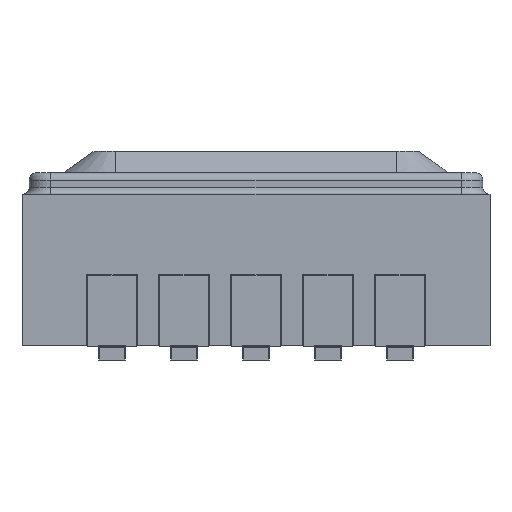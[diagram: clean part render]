
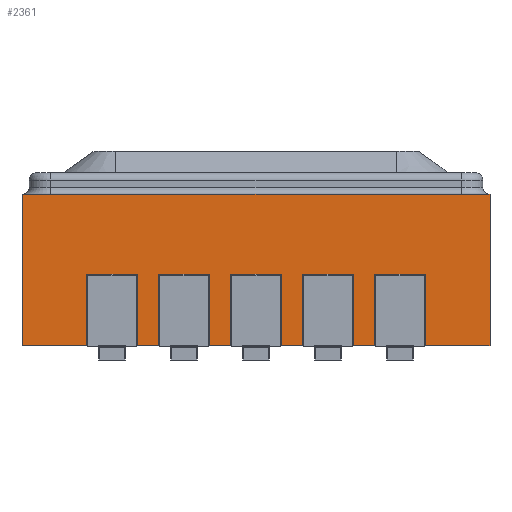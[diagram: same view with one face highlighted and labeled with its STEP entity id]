
A CAD part, left-side view. The second image highlights one B-rep face of the part: STEP entity #2361.
In plain terms, the highlighted planar face has unit normal (-1, 0, 0).
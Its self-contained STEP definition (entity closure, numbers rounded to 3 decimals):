
#2361=ADVANCED_FACE('',(#7823),#7825,.T.);
#7823=FACE_BOUND('',#7824,.T.);
#7824=EDGE_LOOP('',(#13329,#13330,#13331,#13332,#13333,#13334,#13335,#13336,#13337,
#13338,#13339,#13340,#13341,#13342,#13343,#13344,#13345,#13346,#13347,#13348,#13349,
#13350,#13351,#13352,#13353,#13354));
#7825=PLANE('',#7826);
#7826=AXIS2_PLACEMENT_3D('',#7827,#7828,#7829);
#7827=CARTESIAN_POINT('',(-3.25,3.25,0.));
#7828=DIRECTION('',(-1.,0.,0.));
#7829=DIRECTION('',(0.,-1.,0.));
#13329=ORIENTED_EDGE('',*,*,#15987,.F.);
#13330=ORIENTED_EDGE('',*,*,#15988,.T.);
#13331=ORIENTED_EDGE('',*,*,#15989,.F.);
#13332=ORIENTED_EDGE('',*,*,#15990,.F.);
#13333=ORIENTED_EDGE('',*,*,#15991,.F.);
#13334=ORIENTED_EDGE('',*,*,#15992,.T.);
#13335=ORIENTED_EDGE('',*,*,#15993,.F.);
#13336=ORIENTED_EDGE('',*,*,#15994,.F.);
#13337=ORIENTED_EDGE('',*,*,#15995,.F.);
#13338=ORIENTED_EDGE('',*,*,#15996,.T.);
#13339=ORIENTED_EDGE('',*,*,#15997,.F.);
#13340=ORIENTED_EDGE('',*,*,#15998,.F.);
#13341=ORIENTED_EDGE('',*,*,#15999,.F.);
#13342=ORIENTED_EDGE('',*,*,#16000,.T.);
#13343=ORIENTED_EDGE('',*,*,#16001,.T.);
#13344=ORIENTED_EDGE('',*,*,#16002,.F.);
#13345=ORIENTED_EDGE('',*,*,#15937,.F.);
#13346=ORIENTED_EDGE('',*,*,#15986,.F.);
#13347=ORIENTED_EDGE('',*,*,#15977,.F.);
#13348=ORIENTED_EDGE('',*,*,#16003,.T.);
#13349=ORIENTED_EDGE('',*,*,#16004,.F.);
#13350=ORIENTED_EDGE('',*,*,#16005,.F.);
#13351=ORIENTED_EDGE('',*,*,#16006,.F.);
#13352=ORIENTED_EDGE('',*,*,#16007,.T.);
#13353=ORIENTED_EDGE('',*,*,#16008,.F.);
#13354=ORIENTED_EDGE('',*,*,#16009,.F.);
#15937=EDGE_CURVE('',#18026,#18029,#18030,.T.);
#15977=EDGE_CURVE('',#18102,#18104,#18105,.T.);
#15986=EDGE_CURVE('',#18104,#18026,#18120,.T.);
#15987=EDGE_CURVE('',#18121,#18122,#18123,.T.);
#15988=EDGE_CURVE('',#18121,#18124,#18125,.T.);
#15989=EDGE_CURVE('',#18126,#18124,#18127,.T.);
#15990=EDGE_CURVE('',#18128,#18126,#18129,.T.);
#15991=EDGE_CURVE('',#18130,#18128,#18131,.T.);
#15992=EDGE_CURVE('',#18130,#18132,#18133,.T.);
#15993=EDGE_CURVE('',#18134,#18132,#18135,.T.);
#15994=EDGE_CURVE('',#18136,#18134,#18137,.T.);
#15995=EDGE_CURVE('',#18138,#18136,#18139,.T.);
#15996=EDGE_CURVE('',#18138,#18140,#18141,.T.);
#15997=EDGE_CURVE('',#18142,#18140,#18143,.T.);
#15998=EDGE_CURVE('',#18144,#18142,#18145,.T.);
#15999=EDGE_CURVE('',#18146,#18144,#18147,.T.);
#16000=EDGE_CURVE('',#18146,#18148,#18149,.T.);
#16001=EDGE_CURVE('',#18148,#18150,#18151,.T.);
#16002=EDGE_CURVE('',#18029,#18150,#18152,.T.);
#16003=EDGE_CURVE('',#18102,#18153,#18154,.T.);
#16004=EDGE_CURVE('',#18155,#18153,#18156,.T.);
#16005=EDGE_CURVE('',#18157,#18155,#18158,.T.);
#16006=EDGE_CURVE('',#18159,#18157,#18160,.T.);
#16007=EDGE_CURVE('',#18159,#18161,#18162,.T.);
#16008=EDGE_CURVE('',#18163,#18161,#18164,.T.);
#16009=EDGE_CURVE('',#18122,#18163,#18165,.T.);
#18026=VERTEX_POINT('',#23379);
#18029=VERTEX_POINT('',#23388);
#18030=LINE('',#23389,#23390);
#18102=VERTEX_POINT('',#23648);
#18104=VERTEX_POINT('',#23652);
#18105=LINE('',#23653,#23654);
#18120=LINE('',#23686,#23687);
#18121=VERTEX_POINT('',#23689);
#18122=VERTEX_POINT('',#23690);
#18123=LINE('',#23691,#23692);
#18124=VERTEX_POINT('',#23694);
#18125=LINE('',#23695,#23696);
#18126=VERTEX_POINT('',#23698);
#18127=LINE('',#23699,#23700);
#18128=VERTEX_POINT('',#23702);
#18129=LINE('',#23703,#23704);
#18130=VERTEX_POINT('',#23706);
#18131=LINE('',#23707,#23708);
#18132=VERTEX_POINT('',#23710);
#18133=LINE('',#23711,#23712);
#18134=VERTEX_POINT('',#23714);
#18135=LINE('',#23715,#23716);
#18136=VERTEX_POINT('',#23718);
#18137=LINE('',#23719,#23720);
#18138=VERTEX_POINT('',#23722);
#18139=LINE('',#23723,#23724);
#18140=VERTEX_POINT('',#23726);
#18141=LINE('',#23727,#23728);
#18142=VERTEX_POINT('',#23730);
#18143=LINE('',#23731,#23732);
#18144=VERTEX_POINT('',#23734);
#18145=LINE('',#23735,#23736);
#18146=VERTEX_POINT('',#23738);
#18147=LINE('',#23739,#23740);
#18148=VERTEX_POINT('',#23742);
#18149=LINE('',#23743,#23744);
#18150=VERTEX_POINT('',#23746);
#18151=LINE('',#23747,#23748);
#18152=LINE('',#23750,#23751);
#18153=VERTEX_POINT('',#23753);
#18154=LINE('',#23754,#23755);
#18155=VERTEX_POINT('',#23757);
#18156=LINE('',#23758,#23759);
#18157=VERTEX_POINT('',#23761);
#18158=LINE('',#23762,#23763);
#18159=VERTEX_POINT('',#23765);
#18160=LINE('',#23766,#23767);
#18161=VERTEX_POINT('',#23769);
#18162=LINE('',#23770,#23771);
#18163=VERTEX_POINT('',#23773);
#18164=LINE('',#23774,#23775);
#18165=LINE('',#23777,#23778);
#23379=CARTESIAN_POINT('',(-3.25,2.85,2.101));
#23388=CARTESIAN_POINT('',(-3.25,-2.85,2.101));
#23389=CARTESIAN_POINT('',(-3.25,2.85,2.101));
#23390=VECTOR('',#23391,1.);
#23391=DIRECTION('',(0.,-1.,0.));
#23648=CARTESIAN_POINT('',(-3.25,3.25,0.));
#23652=CARTESIAN_POINT('',(-3.25,3.25,2.101));
#23653=CARTESIAN_POINT('',(-3.25,3.25,0.));
#23654=VECTOR('',#23655,1.);
#23655=DIRECTION('',(0.,0.,1.));
#23686=CARTESIAN_POINT('',(-3.25,3.25,2.101));
#23687=VECTOR('',#23688,1.);
#23688=DIRECTION('',(0.,-1.,0.));
#23689=CARTESIAN_POINT('',(-3.25,0.65,0.));
#23690=CARTESIAN_POINT('',(-3.25,0.65,0.99));
#23691=CARTESIAN_POINT('',(-3.25,0.65,0.));
#23692=VECTOR('',#23693,1.);
#23693=DIRECTION('',(0.,0.,1.));
#23694=CARTESIAN_POINT('',(-3.25,0.35,0.));
#23695=CARTESIAN_POINT('',(-3.25,0.65,0.));
#23696=VECTOR('',#23697,1.);
#23697=DIRECTION('',(0.,-1.,0.));
#23698=CARTESIAN_POINT('',(-3.25,0.35,0.99));
#23699=CARTESIAN_POINT('',(-3.25,0.35,0.99));
#23700=VECTOR('',#23701,1.);
#23701=DIRECTION('',(0.,0.,-1.));
#23702=CARTESIAN_POINT('',(-3.25,-0.35,0.99));
#23703=CARTESIAN_POINT('',(-3.25,-0.35,0.99));
#23704=VECTOR('',#23705,1.);
#23705=DIRECTION('',(0.,1.,0.));
#23706=CARTESIAN_POINT('',(-3.25,-0.35,0.));
#23707=CARTESIAN_POINT('',(-3.25,-0.35,0.));
#23708=VECTOR('',#23709,1.);
#23709=DIRECTION('',(0.,0.,1.));
#23710=CARTESIAN_POINT('',(-3.25,-0.65,0.));
#23711=CARTESIAN_POINT('',(-3.25,-0.35,0.));
#23712=VECTOR('',#23713,1.);
#23713=DIRECTION('',(0.,-1.,0.));
#23714=CARTESIAN_POINT('',(-3.25,-0.65,0.99));
#23715=CARTESIAN_POINT('',(-3.25,-0.65,0.99));
#23716=VECTOR('',#23717,1.);
#23717=DIRECTION('',(0.,0.,-1.));
#23718=CARTESIAN_POINT('',(-3.25,-1.35,0.99));
#23719=CARTESIAN_POINT('',(-3.25,-1.35,0.99));
#23720=VECTOR('',#23721,1.);
#23721=DIRECTION('',(0.,1.,0.));
#23722=CARTESIAN_POINT('',(-3.25,-1.35,0.));
#23723=CARTESIAN_POINT('',(-3.25,-1.35,0.));
#23724=VECTOR('',#23725,1.);
#23725=DIRECTION('',(0.,0.,1.));
#23726=CARTESIAN_POINT('',(-3.25,-1.65,0.));
#23727=CARTESIAN_POINT('',(-3.25,-1.35,0.));
#23728=VECTOR('',#23729,1.);
#23729=DIRECTION('',(0.,-1.,0.));
#23730=CARTESIAN_POINT('',(-3.25,-1.65,0.99));
#23731=CARTESIAN_POINT('',(-3.25,-1.65,0.99));
#23732=VECTOR('',#23733,1.);
#23733=DIRECTION('',(0.,0.,-1.));
#23734=CARTESIAN_POINT('',(-3.25,-2.35,0.99));
#23735=CARTESIAN_POINT('',(-3.25,-2.35,0.99));
#23736=VECTOR('',#23737,1.);
#23737=DIRECTION('',(0.,1.,0.));
#23738=CARTESIAN_POINT('',(-3.25,-2.35,0.));
#23739=CARTESIAN_POINT('',(-3.25,-2.35,0.));
#23740=VECTOR('',#23741,1.);
#23741=DIRECTION('',(0.,0.,1.));
#23742=CARTESIAN_POINT('',(-3.25,-3.25,0.));
#23743=CARTESIAN_POINT('',(-3.25,-2.35,0.));
#23744=VECTOR('',#23745,1.);
#23745=DIRECTION('',(0.,-1.,0.));
#23746=CARTESIAN_POINT('',(-3.25,-3.25,2.101));
#23747=CARTESIAN_POINT('',(-3.25,-3.25,0.));
#23748=VECTOR('',#23749,1.);
#23749=DIRECTION('',(0.,0.,1.));
#23750=CARTESIAN_POINT('',(-3.25,-2.85,2.101));
#23751=VECTOR('',#23752,1.);
#23752=DIRECTION('',(0.,-1.,0.));
#23753=CARTESIAN_POINT('',(-3.25,2.35,0.));
#23754=CARTESIAN_POINT('',(-3.25,3.25,0.));
#23755=VECTOR('',#23756,1.);
#23756=DIRECTION('',(0.,-1.,0.));
#23757=CARTESIAN_POINT('',(-3.25,2.35,0.99));
#23758=CARTESIAN_POINT('',(-3.25,2.35,0.99));
#23759=VECTOR('',#23760,1.);
#23760=DIRECTION('',(0.,0.,-1.));
#23761=CARTESIAN_POINT('',(-3.25,1.65,0.99));
#23762=CARTESIAN_POINT('',(-3.25,1.65,0.99));
#23763=VECTOR('',#23764,1.);
#23764=DIRECTION('',(0.,1.,0.));
#23765=CARTESIAN_POINT('',(-3.25,1.65,0.));
#23766=CARTESIAN_POINT('',(-3.25,1.65,0.));
#23767=VECTOR('',#23768,1.);
#23768=DIRECTION('',(0.,0.,1.));
#23769=CARTESIAN_POINT('',(-3.25,1.35,0.));
#23770=CARTESIAN_POINT('',(-3.25,1.65,0.));
#23771=VECTOR('',#23772,1.);
#23772=DIRECTION('',(0.,-1.,0.));
#23773=CARTESIAN_POINT('',(-3.25,1.35,0.99));
#23774=CARTESIAN_POINT('',(-3.25,1.35,0.99));
#23775=VECTOR('',#23776,1.);
#23776=DIRECTION('',(0.,0.,-1.));
#23777=CARTESIAN_POINT('',(-3.25,0.65,0.99));
#23778=VECTOR('',#23779,1.);
#23779=DIRECTION('',(0.,1.,0.));
